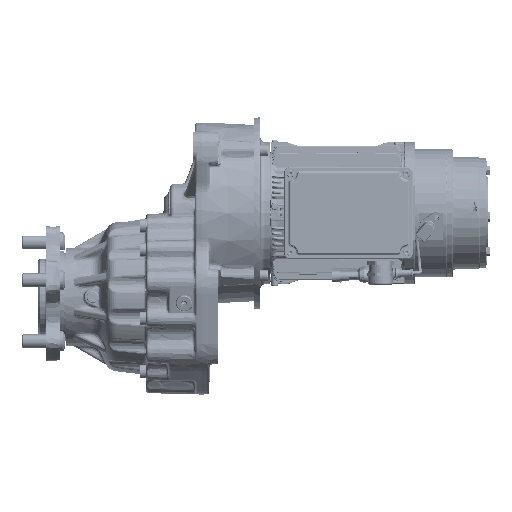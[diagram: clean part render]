
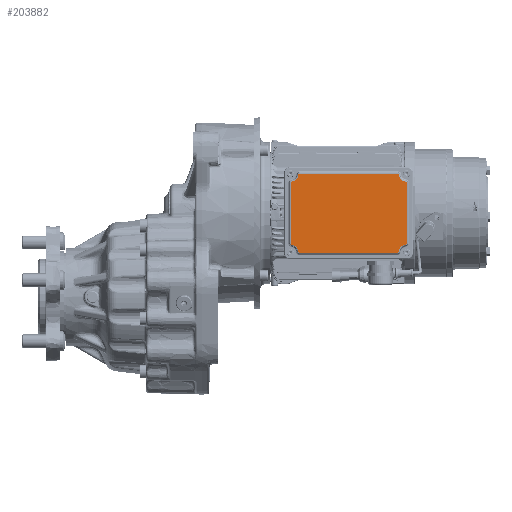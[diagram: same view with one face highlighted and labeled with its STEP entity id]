
A CAD part, front view. The second image highlights one B-rep face of the part: STEP entity #203882.
In plain terms, the highlighted planar face has unit normal (0, -1, 0).
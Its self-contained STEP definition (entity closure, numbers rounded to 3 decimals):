
#2162=ELLIPSE('',#218785,1.504,1.5);
#2163=ELLIPSE('',#218799,1.504,1.5);
#2164=ELLIPSE('',#218808,1.504,1.5);
#2215=ELLIPSE('',#219199,1.504,1.5);
#2216=ELLIPSE('',#219202,1.504,1.5);
#2235=ELLIPSE('',#219509,1.504,1.5);
#2247=ELLIPSE('',#219563,1.504,1.5);
#2265=ELLIPSE('',#219759,1.504,1.5);
#16558=PLANE('',#219790);
#22981=FACE_OUTER_BOUND('',#35850,.T.);
#35850=EDGE_LOOP('',(#147575,#147576,#147577,#147578,#147579,#147580,#147581,
#147582,#147583,#147584,#147585,#147586,#147587,#147588,#147589,#147590));
#48941=LINE('',#371689,#60488);
#48942=LINE('',#372166,#60489);
#49037=LINE('',#374080,#60584);
#50002=LINE('',#386976,#61549);
#60488=VECTOR('',#252265,1000.);
#60489=VECTOR('',#252302,1000.);
#60584=VECTOR('',#252741,1000.);
#61549=VECTOR('',#255094,1000.);
#70707=CIRCLE('',#218788,9.633);
#70714=CIRCLE('',#218797,9.633);
#70900=CIRCLE('',#219201,9.633);
#71058=CIRCLE('',#219655,9.633);
#84018=VERTEX_POINT('',#371598);
#84021=VERTEX_POINT('',#371672);
#84023=VERTEX_POINT('',#371677);
#84024=VERTEX_POINT('',#371679);
#84026=VERTEX_POINT('',#371685);
#84028=VERTEX_POINT('',#371691);
#84031=VERTEX_POINT('',#371696);
#84033=VERTEX_POINT('',#371850);
#84034=VERTEX_POINT('',#371852);
#84040=VERTEX_POINT('',#372085);
#84043=VERTEX_POINT('',#372159);
#84045=VERTEX_POINT('',#372164);
#84229=VERTEX_POINT('',#374073);
#84232=VERTEX_POINT('',#374078);
#84623=VERTEX_POINT('',#379479);
#85139=VERTEX_POINT('',#386975);
#105550=EDGE_CURVE('',#84018,#84021,#2162,.T.);
#105552=EDGE_CURVE('',#84024,#84023,#70707,.T.);
#105557=EDGE_CURVE('',#84026,#84018,#48941,.T.);
#105561=EDGE_CURVE('',#84028,#84031,#70714,.T.);
#105563=EDGE_CURVE('',#84034,#84033,#2163,.T.);
#105573=EDGE_CURVE('',#84040,#84043,#2164,.T.);
#105575=EDGE_CURVE('',#84043,#84045,#48942,.T.);
#105811=EDGE_CURVE('',#84229,#84232,#49037,.T.);
#106312=EDGE_CURVE('',#84623,#84229,#2215,.T.);
#106313=EDGE_CURVE('',#84021,#84040,#70900,.T.);
#106314=EDGE_CURVE('',#84045,#84024,#2216,.T.);
#106959=EDGE_CURVE('',#84232,#84028,#2235,.T.);
#107051=EDGE_CURVE('',#84031,#84026,#2247,.T.);
#107258=EDGE_CURVE('',#84033,#84623,#71058,.T.);
#107278=EDGE_CURVE('',#85139,#84034,#50002,.T.);
#107382=EDGE_CURVE('',#84023,#85139,#2265,.T.);
#147575=ORIENTED_EDGE('',*,*,#107258,.T.);
#147576=ORIENTED_EDGE('',*,*,#106312,.T.);
#147577=ORIENTED_EDGE('',*,*,#105811,.T.);
#147578=ORIENTED_EDGE('',*,*,#106959,.T.);
#147579=ORIENTED_EDGE('',*,*,#105561,.T.);
#147580=ORIENTED_EDGE('',*,*,#107051,.T.);
#147581=ORIENTED_EDGE('',*,*,#105557,.T.);
#147582=ORIENTED_EDGE('',*,*,#105550,.T.);
#147583=ORIENTED_EDGE('',*,*,#106313,.T.);
#147584=ORIENTED_EDGE('',*,*,#105573,.T.);
#147585=ORIENTED_EDGE('',*,*,#105575,.T.);
#147586=ORIENTED_EDGE('',*,*,#106314,.T.);
#147587=ORIENTED_EDGE('',*,*,#105552,.T.);
#147588=ORIENTED_EDGE('',*,*,#107382,.T.);
#147589=ORIENTED_EDGE('',*,*,#107278,.T.);
#147590=ORIENTED_EDGE('',*,*,#105563,.T.);
#203882=ADVANCED_FACE('',(#22981),#16558,.T.);
#218785=AXIS2_PLACEMENT_3D('',#371674,#252248,#252249);
#218788=AXIS2_PLACEMENT_3D('',#371680,#252254,#252255);
#218797=AXIS2_PLACEMENT_3D('',#371698,#252274,#252275);
#218799=AXIS2_PLACEMENT_3D('',#371853,#252278,#252279);
#218808=AXIS2_PLACEMENT_3D('',#372161,#252296,#252297);
#219199=AXIS2_PLACEMENT_3D('',#379551,#253470,#253471);
#219201=AXIS2_PLACEMENT_3D('',#379553,#253474,#253475);
#219202=AXIS2_PLACEMENT_3D('',#379704,#253476,#253477);
#219509=AXIS2_PLACEMENT_3D('',#383041,#254564,#254565);
#219563=AXIS2_PLACEMENT_3D('',#385136,#254710,#254711);
#219655=AXIS2_PLACEMENT_3D('',#386908,#255042,#255043);
#219759=AXIS2_PLACEMENT_3D('',#389175,#255293,#255294);
#219790=AXIS2_PLACEMENT_3D('',#390194,#255382,#255383);
#252248=DIRECTION('center_axis',(0.,-1.,0.));
#252249=DIRECTION('ref_axis',(-0.756,0.,-0.655));
#252254=DIRECTION('center_axis',(0.,1.,0.));
#252255=DIRECTION('ref_axis',(1.,0.,0.));
#252265=DIRECTION('',(0.,0.,-1.));
#252274=DIRECTION('center_axis',(0.,1.,0.));
#252275=DIRECTION('ref_axis',(1.,0.,0.));
#252278=DIRECTION('center_axis',(0.,-1.,0.));
#252279=DIRECTION('ref_axis',(-0.756,0.,-0.655));
#252296=DIRECTION('center_axis',(0.,-1.,0.));
#252297=DIRECTION('ref_axis',(0.663,0.,0.748));
#252302=DIRECTION('',(1.,0.,0.));
#252741=DIRECTION('',(-1.,0.,0.));
#253470=DIRECTION('center_axis',(0.,-1.,0.));
#253471=DIRECTION('ref_axis',(0.663,0.,0.748));
#253474=DIRECTION('center_axis',(0.,1.,0.));
#253475=DIRECTION('ref_axis',(1.,0.,0.));
#253476=DIRECTION('center_axis',(0.,-1.,0.));
#253477=DIRECTION('ref_axis',(-0.663,0.,0.748));
#254564=DIRECTION('center_axis',(0.,-1.,0.));
#254565=DIRECTION('ref_axis',(-0.663,0.,0.748));
#254710=DIRECTION('center_axis',(0.,-1.,0.));
#254711=DIRECTION('ref_axis',(-0.756,0.,
0.655));
#255042=DIRECTION('center_axis',(0.,1.,0.));
#255043=DIRECTION('ref_axis',(1.,0.,0.));
#255094=DIRECTION('',(0.,0.,1.));
#255293=DIRECTION('center_axis',(0.,-1.,0.));
#255294=DIRECTION('ref_axis',(-0.756,0.,
0.655));
#255382=DIRECTION('center_axis',(0.,-1.,0.));
#255383=DIRECTION('ref_axis',(0.,0.,
-1.));
#371598=CARTESIAN_POINT('',(97.772,-144.639,58.831));
#371672=CARTESIAN_POINT('',(99.057,-144.639,57.348));
#371674=CARTESIAN_POINT('Origin',(99.274,-144.639,58.834));
#371677=CARTESIAN_POINT('',(234.821,-144.639,57.348));
#371679=CARTESIAN_POINT('',(226.625,-144.639,48.964));
#371680=CARTESIAN_POINT('Origin',(236.189,-144.639,47.813));
#371685=CARTESIAN_POINT('',(97.772,-144.639,130.794));
#371689=CARTESIAN_POINT('',(97.772,-144.639,58.895));
#371691=CARTESIAN_POINT('',(107.253,-144.639,140.661));
#371696=CARTESIAN_POINT('',(99.057,-144.639,132.277));
#371698=CARTESIAN_POINT('Origin',(97.689,-144.639,141.813));
#371850=CARTESIAN_POINT('',(234.821,-144.639,132.277));
#371852=CARTESIAN_POINT('',(236.106,-144.639,130.794));
#371853=CARTESIAN_POINT('Origin',(234.604,-144.639,130.791));
#372085=CARTESIAN_POINT('',(107.253,-144.639,48.964));
#372159=CARTESIAN_POINT('',(108.74,-144.639,47.646));
#372161=CARTESIAN_POINT('Origin',(108.744,-144.639,49.148));
#372164=CARTESIAN_POINT('',(225.138,-144.639,47.646));
#372166=CARTESIAN_POINT('',(225.072,-144.639,47.646));
#374073=CARTESIAN_POINT('',(225.138,-144.639,141.98));
#374078=CARTESIAN_POINT('',(108.74,-144.639,141.98));
#374080=CARTESIAN_POINT('',(108.806,-144.639,141.98));
#379479=CARTESIAN_POINT('',(226.625,-144.639,140.661));
#379551=CARTESIAN_POINT('Origin',(225.134,-144.639,140.477));
#379553=CARTESIAN_POINT('Origin',(97.689,-144.639,47.813));
#379704=CARTESIAN_POINT('Origin',(225.134,-144.639,49.148));
#383041=CARTESIAN_POINT('Origin',(108.744,-144.639,140.477));
#385136=CARTESIAN_POINT('Origin',(99.274,-144.639,130.791));
#386908=CARTESIAN_POINT('Origin',(236.189,-144.639,141.813));
#386975=CARTESIAN_POINT('',(236.106,-144.639,58.831));
#386976=CARTESIAN_POINT('',(236.106,-144.639,130.73));
#389175=CARTESIAN_POINT('Origin',(234.604,-144.639,58.834));
#390194=CARTESIAN_POINT('Origin',(166.939,-144.639,94.813));
